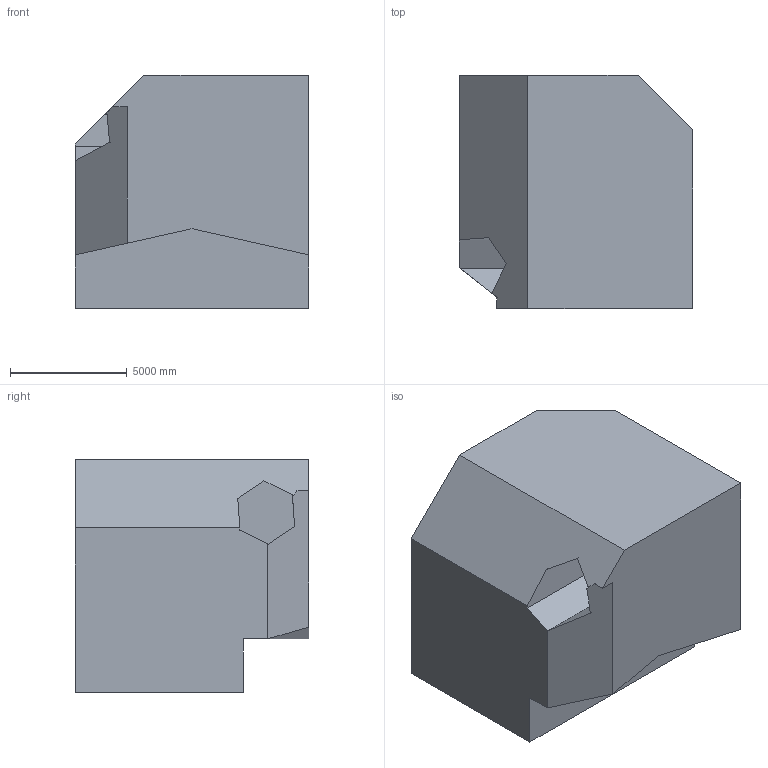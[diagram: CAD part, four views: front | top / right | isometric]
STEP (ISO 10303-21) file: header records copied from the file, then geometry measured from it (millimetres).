
FILE_DESCRIPTION (( 'STEP AP203' ), '1' );
FILE_NAME ('153.STEP', '2022-09-06T15:14:46', ( 'user' ), ( '' ), 'SwSTEP 2.0', 'SolidWorks 2021', '' );
FILE_SCHEMA (( 'CONFIG_CONTROL_DESIGN' ));
Length unit declared in the file: centimetre
Products named in the file (1): 153
Bounding box: 10000 x 10000 x 10000 mm (x, y, z)
Volume: 783375474219.4 mm3; surface area: 645107123.1 mm2
Topology: 1 solids, 1 shells, 26 faces, 69 edges, 46 vertices
Faces by surface type: plane 22, cylinder 4
Entity records: 875 total; most frequent: CARTESIAN_POINT 157, ORIENTED_EDGE 138, DIRECTION 123, EDGE_CURVE 69, LINE 59, VECTOR 59, VERTEX_POINT 46, AXIS2_PLACEMENT_3D 32
